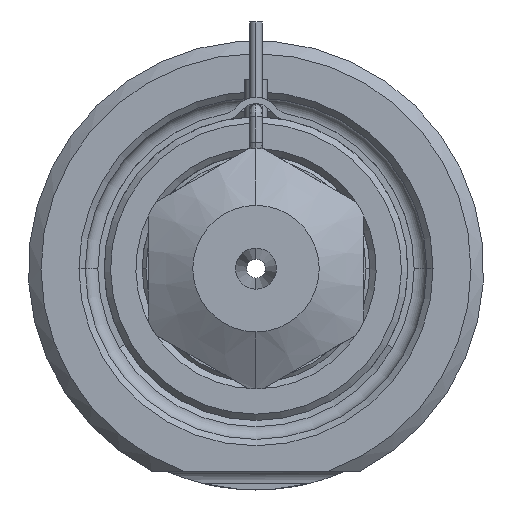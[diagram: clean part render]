
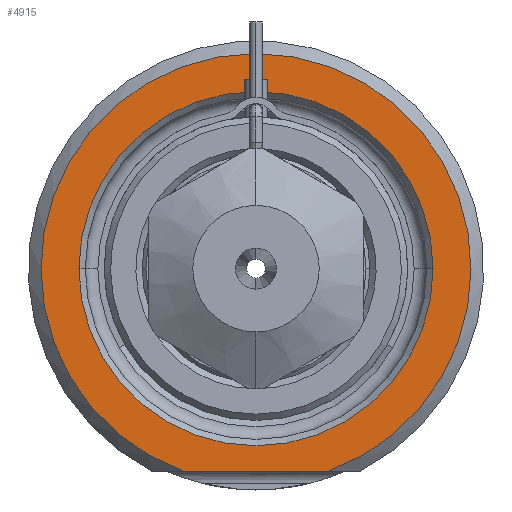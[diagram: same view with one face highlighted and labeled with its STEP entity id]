
A CAD part, front view. The second image highlights one B-rep face of the part: STEP entity #4915.
In plain terms, the highlighted planar face has unit normal (0, -1, 0).
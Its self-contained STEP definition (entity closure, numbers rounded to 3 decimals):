
#1508=DIRECTION('',(1.,0.,0.));
#1509=VECTOR('',#1508,11.489);
#1510=CARTESIAN_POINT('',(-5.745,0.,-16.));
#1511=LINE('',#1510,#1509);
#1512=CARTESIAN_POINT('',(0.,0.,0.));
#1513=DIRECTION('',(0.,1.,0.));
#1514=DIRECTION('',(-1.,0.,0.));
#1515=AXIS2_PLACEMENT_3D('',#1512,#1513,#1514);
#1517=CARTESIAN_POINT('',(0.,0.,0.));
#1518=DIRECTION('',(0.,1.,0.));
#1519=DIRECTION('',(1.,0.,0.));
#1520=AXIS2_PLACEMENT_3D('',#1517,#1518,#1519);
#1624=CARTESIAN_POINT('',(0.,0.,0.));
#1625=DIRECTION('',(0.,-1.,0.));
#1626=DIRECTION('',(0.338,0.,-0.941));
#1627=AXIS2_PLACEMENT_3D('',#1624,#1625,#1626);
#2568=CARTESIAN_POINT('',(-14.,0.,0.));
#2569=CARTESIAN_POINT('',(14.,0.,0.));
#2570=VERTEX_POINT('',#2568);
#2571=VERTEX_POINT('',#2569);
#2618=CARTESIAN_POINT('',(-5.745,0.,-16.));
#2619=CARTESIAN_POINT('',(5.745,0.,-16.));
#2620=VERTEX_POINT('',#2618);
#2621=VERTEX_POINT('',#2619);
#4899=CARTESIAN_POINT('',(0.,0.,0.));
#4900=DIRECTION('',(0.,-1.,0.));
#4901=DIRECTION('',(1.,0.,0.));
#4902=AXIS2_PLACEMENT_3D('',#4899,#4900,#4901);
#4903=PLANE('',#4902);
#4905=ORIENTED_EDGE('',*,*,#4904,.F.);
#4907=ORIENTED_EDGE('',*,*,#4906,.F.);
#4908=EDGE_LOOP('',(#4905,#4907));
#4909=FACE_OUTER_BOUND('',#4908,.F.);
#4911=ORIENTED_EDGE('',*,*,#4910,.F.);
#4912=ORIENTED_EDGE('',*,*,#4889,.F.);
#4913=EDGE_LOOP('',(#4911,#4912));
#4914=FACE_BOUND('',#4913,.F.);
#4915=ADVANCED_FACE('',(#4909,#4914),#4903,.T.);
#1516=CIRCLE('',#1515,14.);
#1521=CIRCLE('',#1520,14.);
#1628=CIRCLE('',#1627,17.);
#4889=EDGE_CURVE('',#2571,#2570,#1521,.T.);
#4904=EDGE_CURVE('',#2620,#2621,#1511,.T.);
#4906=EDGE_CURVE('',#2621,#2620,#1628,.T.);
#4910=EDGE_CURVE('',#2570,#2571,#1516,.T.);
